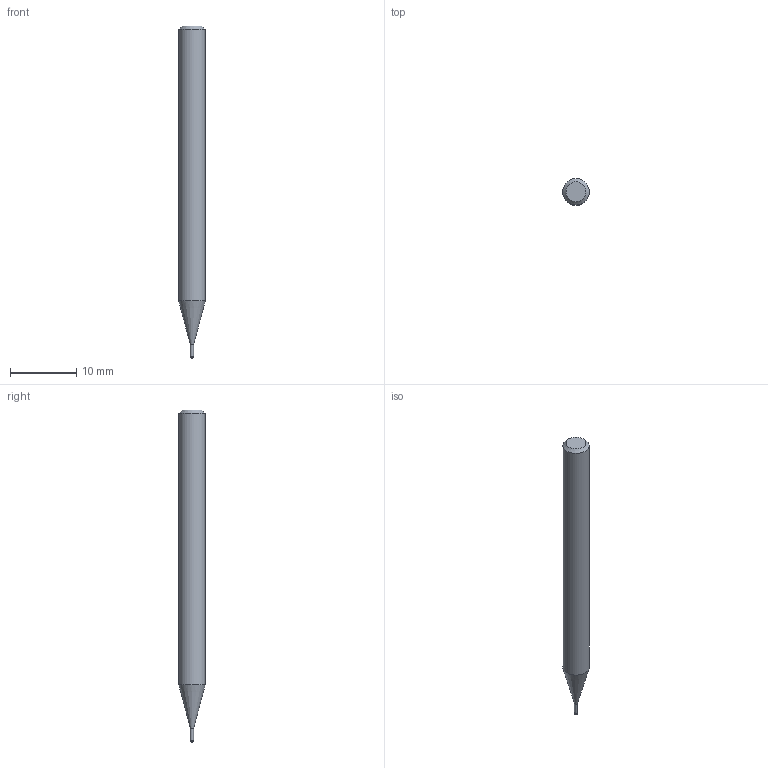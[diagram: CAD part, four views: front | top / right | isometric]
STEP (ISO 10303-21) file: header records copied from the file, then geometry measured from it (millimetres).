
FILE_DESCRIPTION((''),'2;1');
FILE_NAME('C:\Users\nsx150\AppData\Local\Temp\Mastercam 2021\LJSIDMOTM8\TEMP.step','2021-08-03T14:04:18',(''),(''),'STEP Write','Mastercam 2021 ... CNC Software, Inc.','');
FILE_SCHEMA(('AUTOMOTIVE_DESIGN'));
Length unit declared in the file: millimetre
Products named in the file (1): None
Bounding box: 4 x 4 x 50 mm (x, y, z)
Volume: 550.3 mm3; surface area: 580.1 mm2
Topology: 2 solids, 2 shells, 10 faces, 14 edges, 8 vertices
Faces by surface type: plane 4, cylinder 3, cone 2, torus 1
Full cylindrical faces by diameter (mm): 0.46 x1, 0.5 x1, 4 x1
Entity records: 232 total; most frequent: DIRECTION 40, CARTESIAN_POINT 28, AXIS2_PLACEMENT_3D 20, ORIENTED_EDGE 16, EDGE_LOOP 16, STYLED_ITEM 13, ADVANCED_FACE 10, FACE_BOUND 10
